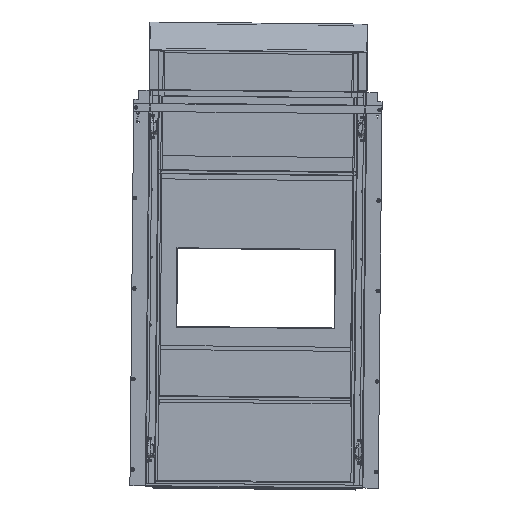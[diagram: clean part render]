
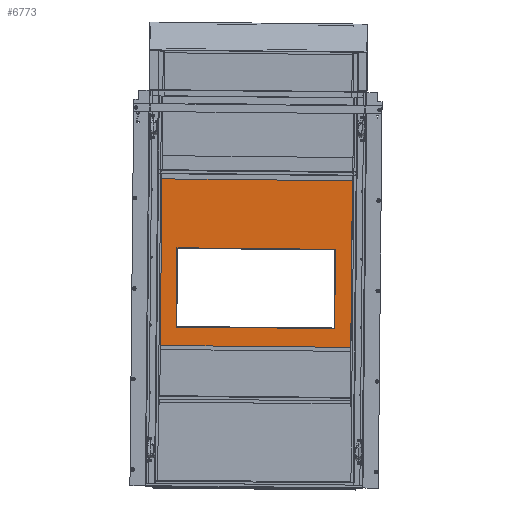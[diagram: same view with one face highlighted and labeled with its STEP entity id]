
A CAD part, top view. The second image highlights one B-rep face of the part: STEP entity #6773.
In plain terms, the highlighted planar face has unit normal (0, 0, 1).
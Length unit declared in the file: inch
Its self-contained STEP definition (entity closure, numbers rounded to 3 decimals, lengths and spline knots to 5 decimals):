
#5056 = CARTESIAN_POINT ( 'NONE',  ( 25.12217, 28.61272, 4.24321 ) ) ;
#6773 = ADVANCED_FACE ( 'NONE', ( #25915, #85858 ), #287751, .F. ) ;
#9302 = ORIENTED_EDGE ( 'NONE', *, *, #24898, .T. ) ;
#13484 = LINE ( 'NONE', #232280, #133286 ) ;
#15194 = ORIENTED_EDGE ( 'NONE', *, *, #238520, .F. ) ;
#16407 = VECTOR ( 'NONE', #157376, 39.37008 ) ;
#17313 = LINE ( 'NONE', #93793, #77242 ) ;
#24898 = EDGE_CURVE ( 'NONE', #54264, #45502, #193219, .T. ) ;
#25915 = FACE_OUTER_BOUND ( 'NONE', #186552, .T. ) ;
#29004 = DIRECTION ( 'NONE',  ( 0.01, 1., 0. ) ) ;
#31387 = ORIENTED_EDGE ( 'NONE', *, *, #232828, .F. ) ;
#42472 = LINE ( 'NONE', #212046, #222641 ) ;
#45502 = VERTEX_POINT ( 'NONE', #183827 ) ;
#54264 = VERTEX_POINT ( 'NONE', #5056 ) ;
#55086 = DIRECTION ( 'NONE',  ( 1., -0.01, 0. ) ) ;
#59873 = EDGE_LOOP ( 'NONE', ( #31387, #15194, #82002, #255479 ) ) ;
#61211 = CARTESIAN_POINT ( 'NONE',  ( 21.94834, -1.60738, 4.24321 ) ) ;
#64931 = DIRECTION ( 'NONE',  ( -1., 0.01, 0. ) ) ;
#77242 = VECTOR ( 'NONE', #187525, 39.37008 ) ;
#77653 = VECTOR ( 'NONE', #149220, 39.37008 ) ;
#82002 = ORIENTED_EDGE ( 'NONE', *, *, #209827, .F. ) ;
#85858 = FACE_BOUND ( 'NONE', #59873, .T. ) ;
#88436 = CARTESIAN_POINT ( 'NONE',  ( 24.78366, -5.6356, 4.24321 ) ) ;
#89644 = CARTESIAN_POINT ( 'NONE',  ( -5.91193, 12.66867, 4.24321 ) ) ;
#92636 = CARTESIAN_POINT ( 'NONE',  ( 21.94834, -1.60738, 4.24321 ) ) ;
#93793 = CARTESIAN_POINT ( 'NONE',  ( -6.05029, -1.33065, 4.24321 ) ) ;
#109671 = CARTESIAN_POINT ( 'NONE',  ( -6.05029, -1.33065, 4.24321 ) ) ;
#116993 = ORIENTED_EDGE ( 'NONE', *, *, #210440, .T. ) ;
#129345 = ORIENTED_EDGE ( 'NONE', *, *, #174386, .T. ) ;
#130701 = DIRECTION ( 'NONE',  ( 0., 0., -1. ) ) ;
#133286 = VECTOR ( 'NONE', #29004, 39.37008 ) ;
#136234 = LINE ( 'NONE', #180117, #16407 ) ;
#137918 = CARTESIAN_POINT ( 'NONE',  ( 22.08671, 12.39193, 4.24321 ) ) ;
#139426 = VERTEX_POINT ( 'NONE', #137918 ) ;
#146320 = VECTOR ( 'NONE', #64931, 39.37008 ) ;
#149220 = DIRECTION ( 'NONE',  ( 0.01, 1., 0. ) ) ;
#153312 = LINE ( 'NONE', #290923, #146320 ) ;
#154371 = VERTEX_POINT ( 'NONE', #88436 ) ;
#157376 = DIRECTION ( 'NONE',  ( -0.01, -1., 0. ) ) ;
#160521 = DIRECTION ( 'NONE',  ( -1., 0.01, 0. ) ) ;
#168538 = LINE ( 'NONE', #61211, #281719 ) ;
#173988 = CARTESIAN_POINT ( 'NONE',  ( -8.96469, -5.30204, 4.24321 ) ) ;
#174386 = EDGE_CURVE ( 'NONE', #45502, #275927, #136234, .T. ) ;
#180117 = CARTESIAN_POINT ( 'NONE',  ( -8.96469, -5.30204, 4.24321 ) ) ;
#183827 = CARTESIAN_POINT ( 'NONE',  ( -8.62618, 28.94629, 4.24321 ) ) ;
#186552 = EDGE_LOOP ( 'NONE', ( #129345, #224583, #116993, #9302 ) ) ;
#187525 = DIRECTION ( 'NONE',  ( -0.01, -1., 0. ) ) ;
#193219 = LINE ( 'NONE', #205057, #246304 ) ;
#197941 = VERTEX_POINT ( 'NONE', #89644 ) ;
#205057 = CARTESIAN_POINT ( 'NONE',  ( -8.62618, 28.94629, 4.24321 ) ) ;
#209827 = EDGE_CURVE ( 'NONE', #197941, #239116, #17313, .T. ) ;
#210440 = EDGE_CURVE ( 'NONE', #154371, #54264, #13484, .T. ) ;
#210831 = VERTEX_POINT ( 'NONE', #92636 ) ;
#212046 = CARTESIAN_POINT ( 'NONE',  ( -8.96469, -5.30204, 4.24321 ) ) ;
#220109 = DIRECTION ( 'NONE',  ( 1., -0.01, 0. ) ) ;
#222641 = VECTOR ( 'NONE', #55086, 39.37008 ) ;
#224583 = ORIENTED_EDGE ( 'NONE', *, *, #290326, .T. ) ;
#225011 = AXIS2_PLACEMENT_3D ( 'NONE', #266074, #130701, #288733 ) ;
#232280 = CARTESIAN_POINT ( 'NONE',  ( 24.78366, -5.6356, 4.24321 ) ) ;
#232828 = EDGE_CURVE ( 'NONE', #210831, #139426, #250708, .T. ) ;
#238520 = EDGE_CURVE ( 'NONE', #239116, #210831, #168538, .T. ) ;
#239116 = VERTEX_POINT ( 'NONE', #109671 ) ;
#246304 = VECTOR ( 'NONE', #160521, 39.37008 ) ;
#250708 = LINE ( 'NONE', #262864, #77653 ) ;
#255479 = ORIENTED_EDGE ( 'NONE', *, *, #274437, .F. ) ;
#262864 = CARTESIAN_POINT ( 'NONE',  ( 21.94834, -1.60738, 4.24321 ) ) ;
#266074 = CARTESIAN_POINT ( 'NONE',  ( 25.12217, 28.61272, 4.24321 ) ) ;
#274437 = EDGE_CURVE ( 'NONE', #139426, #197941, #153312, .T. ) ;
#275927 = VERTEX_POINT ( 'NONE', #173988 ) ;
#281719 = VECTOR ( 'NONE', #220109, 39.37008 ) ;
#287751 = PLANE ( 'NONE',  #225011 ) ;
#288733 = DIRECTION ( 'NONE',  ( -0.01, -1., 0. ) ) ;
#290326 = EDGE_CURVE ( 'NONE', #275927, #154371, #42472, .T. ) ;
#290923 = CARTESIAN_POINT ( 'NONE',  ( 22.08671, 12.39193, 4.24321 ) ) ;
